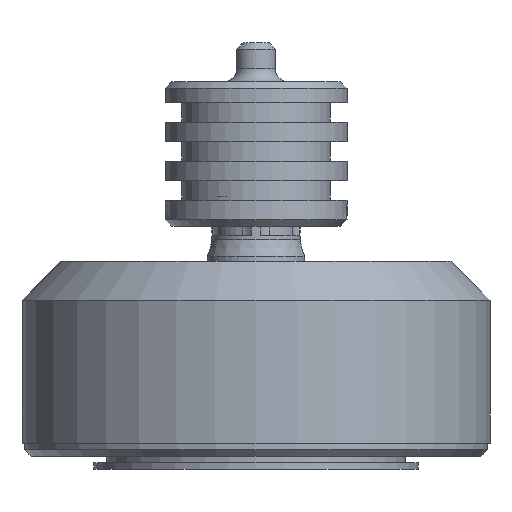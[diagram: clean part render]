
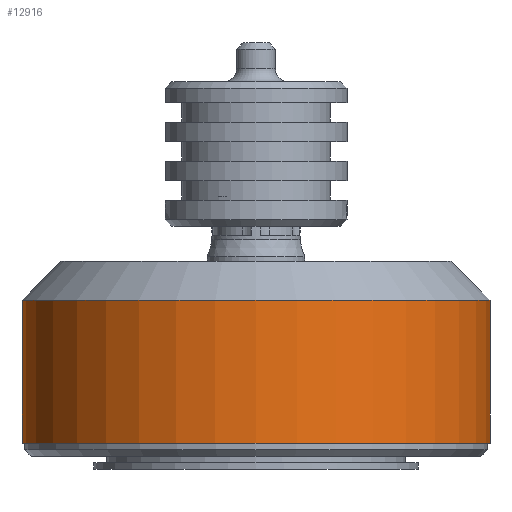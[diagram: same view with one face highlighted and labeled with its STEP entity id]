
A CAD part, left-side view. The second image highlights one B-rep face of the part: STEP entity #12916.
In plain terms, the highlighted cylindrical face has radius 18 mm (diameter 36 mm), a partial arc.
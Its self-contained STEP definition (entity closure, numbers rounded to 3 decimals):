
#8338=CYLINDRICAL_SURFACE('',#26034,18.);
#8560=FACE_OUTER_BOUND('',#14875,.T.);
#9494=LINE('',#33939,#11136);
#9798=LINE('',#35099,#11440);
#11136=VECTOR('',#27521,1.);
#11440=VECTOR('',#27929,1.);
#12916=ADVANCED_FACE('',(#8560),#8338,.T.);
#14875=EDGE_LOOP('',(#17116,#17117,#17118,#17119));
#17116=ORIENTED_EDGE('',*,*,#23768,.T.);
#17117=ORIENTED_EDGE('',*,*,#23791,.T.);
#17118=ORIENTED_EDGE('',*,*,#23792,.T.);
#17119=ORIENTED_EDGE('',*,*,#23347,.F.);
#21463=VERTEX_POINT('',#33938);
#21464=VERTEX_POINT('',#33940);
#21877=VERTEX_POINT('',#35047);
#21888=VERTEX_POINT('',#35098);
#23347=EDGE_CURVE('',#21463,#21464,#9494,.T.);
#23768=EDGE_CURVE('',#21463,#21877,#25589,.T.);
#23791=EDGE_CURVE('',#21877,#21888,#9798,.T.);
#23792=EDGE_CURVE('',#21888,#21464,#25597,.T.);
#25589=CIRCLE('',#26010,18.);
#25597=CIRCLE('',#26033,18.);
#26010=AXIS2_PLACEMENT_3D('',#35050,#27873,#27874);
#26033=AXIS2_PLACEMENT_3D('',#35101,#27932,#27933);
#26034=AXIS2_PLACEMENT_3D('',#35102,#27934,#27935);
#27521=DIRECTION('',(0.,0.,-1.));
#27873=DIRECTION('',(0.,0.,-1.));
#27874=DIRECTION('',(1.,0.,0.));
#27929=DIRECTION('',(0.,0.,-1.));
#27932=DIRECTION('',(0.,0.,1.));
#27933=DIRECTION('',(1.,0.,0.));
#27934=DIRECTION('',(0.,0.,-1.));
#27935=DIRECTION('',(1.,0.,0.));
#33938=CARTESIAN_POINT('',(-287.668,186.207,190.187));
#33939=CARTESIAN_POINT('',(-287.668,186.207,193.187));
#33940=CARTESIAN_POINT('',(-287.668,186.207,179.187));
#35047=CARTESIAN_POINT('',(-287.668,222.207,190.187));
#35050=CARTESIAN_POINT('',(-287.668,204.207,190.187));
#35098=CARTESIAN_POINT('',(-287.668,222.207,179.187));
#35099=CARTESIAN_POINT('',(-287.668,222.207,193.187));
#35101=CARTESIAN_POINT('',(-287.668,204.207,179.187));
#35102=CARTESIAN_POINT('',(-287.668,204.207,193.187));
